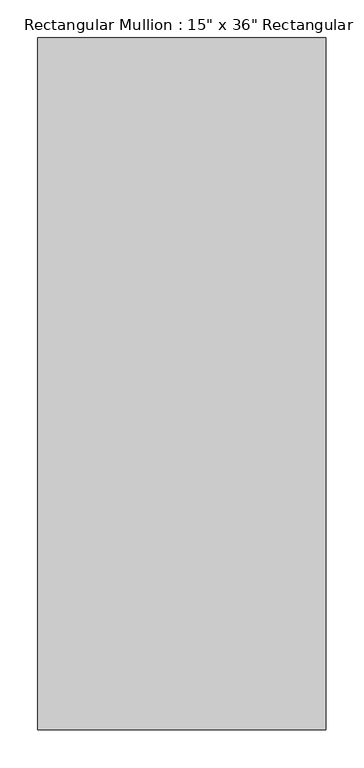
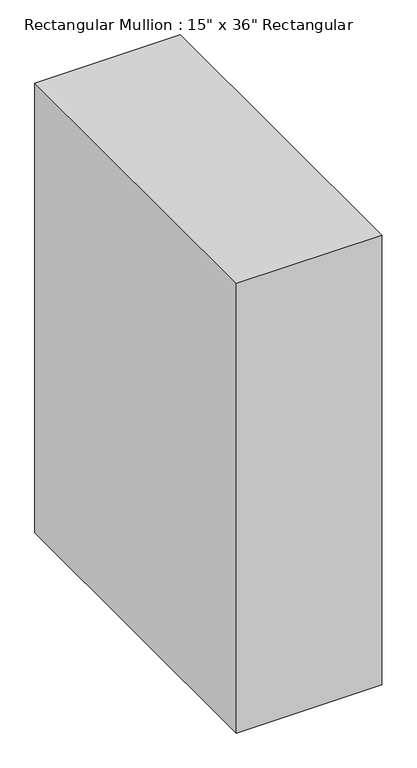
"""IFC4 building model written with IfcOpenShell, lengths in millimetres: member geometry."""

from ifc_helpers import new_model, si_unit, frame, origin, place, context, project, spatial, polyline, outline, extrude, source, transform, mapped, element, save


def member_9d1fe51f(model_context):
    return source(origin(), model_context, "Body", "SweptSolid", [
        extrude(outline(polyline([(0.0, 850.9), (0.0, -63.5), (-381.0, -63.5), (-381.0, 850.9), (0.0, 850.9)])), frame((0.0, 0.0, -1246.0), z_axis=(0.0, 0.0, 1.0), x_axis=(1.0, 0.0, 0.0)), (0.0, 0.0, 1.0), 1246.0),
    ])


if __name__ == "__main__":
    model = new_model("IFC4")
    model_context = context("Model", 3, world=origin())
    ifc_project = project(units=[si_unit("LENGTHUNIT", "METRE", prefix="MILLI")], contexts=[model_context])
    site = spatial("IfcSite", under=ifc_project)
    building = spatial("IfcBuilding", under=site)
    placement = place(None, origin())
    member_shape = member_9d1fe51f(model_context)
    element("IfcMember", 1, ObjectType="Rectangular Mullion : 15\" x 36\" Rectangular", at=placement, inside=building, context=model_context, shape_type="MappedRepresentation", body=[
        mapped(member_shape, transform((0.0, 0.0, 0.0), x_axis=(1.0, 0.0, 0.0), y_axis=(0.0, 1.0, 0.0), z_axis=(0.0, 0.0, 1.0))),
    ])
    save(model, "model.ifc")
